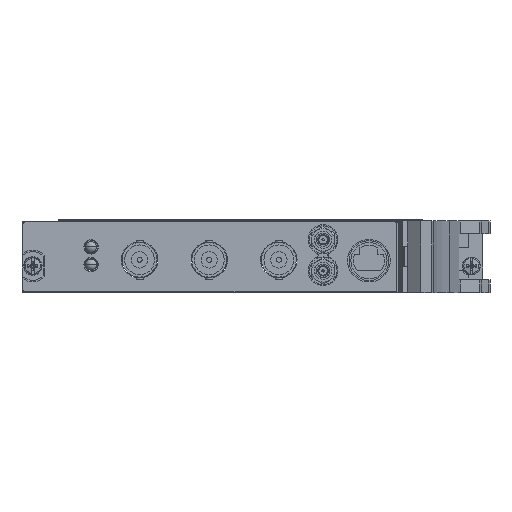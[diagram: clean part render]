
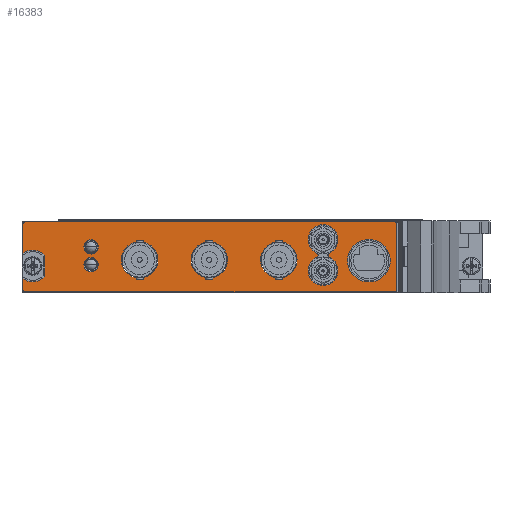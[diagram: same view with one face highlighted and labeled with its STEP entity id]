
A CAD part, top view. The second image highlights one B-rep face of the part: STEP entity #16383.
In plain terms, the highlighted planar face has unit normal (0, 0, 1).
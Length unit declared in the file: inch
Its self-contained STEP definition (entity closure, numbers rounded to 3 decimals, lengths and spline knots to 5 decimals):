
#3451=CARTESIAN_POINT('',(-2.4945,0.15,3.09));
#3452=DIRECTION('',(0.,0.,1.));
#3453=DIRECTION('',(0.,1.,0.));
#3454=AXIS2_PLACEMENT_3D('',#3451,#3452,#3453);
#3456=DIRECTION('',(-1.,0.,0.));
#3457=VECTOR('',#3456,4.07);
#3458=CARTESIAN_POINT('',(1.5755,0.17,3.09));
#3459=LINE('',#3458,#3457);
#3460=CARTESIAN_POINT('',(1.5755,0.15,3.09));
#3461=DIRECTION('',(0.,0.,1.));
#3462=DIRECTION('',(1.,0.,0.));
#3463=AXIS2_PLACEMENT_3D('',#3460,#3461,#3462);
#3465=DIRECTION('',(0.,1.,0.));
#3466=VECTOR('',#3465,0.728);
#3467=CARTESIAN_POINT('',(1.5955,-0.578,3.09));
#3468=LINE('',#3467,#3466);
#3469=CARTESIAN_POINT('',(1.5755,-0.578,3.09));
#3470=DIRECTION('',(0.,0.,1.));
#3471=DIRECTION('',(0.,-1.,0.));
#3472=AXIS2_PLACEMENT_3D('',#3469,#3470,#3471);
#3474=DIRECTION('',(1.,0.,0.));
#3475=VECTOR('',#3474,4.07);
#3476=CARTESIAN_POINT('',(-2.4945,-0.598,3.09));
#3477=LINE('',#3476,#3475);
#3478=CARTESIAN_POINT('',(-2.4945,-0.578,3.09));
#3479=DIRECTION('',(0.,0.,1.));
#3480=DIRECTION('',(-1.,0.,0.));
#3481=AXIS2_PLACEMENT_3D('',#3478,#3479,#3480);
#3483=DIRECTION('',(0.,-1.,0.));
#3484=VECTOR('',#3483,0.1263);
#3485=CARTESIAN_POINT('',(-2.5145,-0.4517,3.09));
#3486=LINE('',#3485,#3484);
#3487=CARTESIAN_POINT('',(-2.4065,-0.314,3.09));
#3488=DIRECTION('',(0.,0.,-1.));
#3489=DIRECTION('',(0.76,-0.65,0.));
#3490=AXIS2_PLACEMENT_3D('',#3487,#3488,#3489);
#3492=DIRECTION('',(0.,-1.,0.));
#3493=VECTOR('',#3492,0.22747);
#3494=CARTESIAN_POINT('',(-2.2735,-0.20026,3.09));
#3495=LINE('',#3494,#3493);
#3496=CARTESIAN_POINT('',(-2.4065,-0.314,3.09));
#3497=DIRECTION('',(0.,0.,-1.));
#3498=DIRECTION('',(-0.617,0.787,0.));
#3499=AXIS2_PLACEMENT_3D('',#3496,#3497,#3498);
#3501=DIRECTION('',(0.,-1.,0.));
#3502=VECTOR('',#3501,0.3263);
#3503=CARTESIAN_POINT('',(-2.5145,0.15,3.09));
#3504=LINE('',#3503,#3502);
#3505=CARTESIAN_POINT('',(-1.7655,-0.105,3.09));
#3506=DIRECTION('',(0.,0.,1.));
#3507=DIRECTION('',(0.,1.,0.));
#3508=AXIS2_PLACEMENT_3D('',#3505,#3506,#3507);
#3510=CARTESIAN_POINT('',(-1.7655,-0.105,3.09));
#3511=DIRECTION('',(0.,0.,1.));
#3512=DIRECTION('',(0.,-1.,0.));
#3513=AXIS2_PLACEMENT_3D('',#3510,#3511,#3512);
#3515=CARTESIAN_POINT('',(1.2875,-0.256,3.09));
#3516=DIRECTION('',(0.,0.,-1.));
#3517=DIRECTION('',(0.,-1.,0.));
#3518=AXIS2_PLACEMENT_3D('',#3515,#3516,#3517);
#3520=CARTESIAN_POINT('',(1.2875,-0.256,3.09));
#3521=DIRECTION('',(0.,0.,-1.));
#3522=DIRECTION('',(0.,1.,0.));
#3523=AXIS2_PLACEMENT_3D('',#3520,#3521,#3522);
#3525=CARTESIAN_POINT('',(0.7835,-0.024,3.09));
#3526=DIRECTION('',(0.,0.,1.));
#3527=DIRECTION('',(0.416,-0.91,0.));
#3528=AXIS2_PLACEMENT_3D('',#3525,#3526,#3527);
#3530=CARTESIAN_POINT('',(0.70538,-0.195,3.09));
#3531=DIRECTION('',(0.,0.,1.));
#3532=DIRECTION('',(0.416,-0.91,0.));
#3533=AXIS2_PLACEMENT_3D('',#3530,#3531,#3532);
#3535=CARTESIAN_POINT('',(0.7835,-0.366,3.09));
#3536=DIRECTION('',(0.,0.,1.));
#3537=DIRECTION('',(-0.416,0.91,0.));
#3538=AXIS2_PLACEMENT_3D('',#3535,#3536,#3537);
#3540=CARTESIAN_POINT('',(0.86162,-0.195,3.09));
#3541=DIRECTION('',(0.,0.,1.));
#3542=DIRECTION('',(-0.416,0.91,0.));
#3543=AXIS2_PLACEMENT_3D('',#3540,#3541,#3542);
#3545=CARTESIAN_POINT('',(-1.7655,-0.3,3.09));
#3546=DIRECTION('',(0.,0.,1.));
#3547=DIRECTION('',(0.,1.,0.));
#3548=AXIS2_PLACEMENT_3D('',#3545,#3546,#3547);
#3550=CARTESIAN_POINT('',(-1.7655,-0.3,3.09));
#3551=DIRECTION('',(0.,0.,1.));
#3552=DIRECTION('',(0.,-1.,0.));
#3553=AXIS2_PLACEMENT_3D('',#3550,#3551,#3552);
#3555=CARTESIAN_POINT('',(-1.2325,-0.247,3.09));
#3556=DIRECTION('',(0.,0.,1.));
#3557=DIRECTION('',(0.,1.,0.));
#3558=AXIS2_PLACEMENT_3D('',#3555,#3556,#3557);
#3560=CARTESIAN_POINT('',(-1.2325,-0.247,3.09));
#3561=DIRECTION('',(0.,0.,1.));
#3562=DIRECTION('',(0.,-1.,0.));
#3563=AXIS2_PLACEMENT_3D('',#3560,#3561,#3562);
#3565=CARTESIAN_POINT('',(-0.4675,-0.247,3.09));
#3566=DIRECTION('',(0.,0.,1.));
#3567=DIRECTION('',(0.,1.,0.));
#3568=AXIS2_PLACEMENT_3D('',#3565,#3566,#3567);
#3570=CARTESIAN_POINT('',(-0.4675,-0.247,3.09));
#3571=DIRECTION('',(0.,0.,1.));
#3572=DIRECTION('',(0.,-1.,0.));
#3573=AXIS2_PLACEMENT_3D('',#3570,#3571,#3572);
#3575=CARTESIAN_POINT('',(0.2975,-0.247,3.09));
#3576=DIRECTION('',(0.,0.,1.));
#3577=DIRECTION('',(0.,1.,0.));
#3578=AXIS2_PLACEMENT_3D('',#3575,#3576,#3577);
#3580=CARTESIAN_POINT('',(0.2975,-0.247,3.09));
#3581=DIRECTION('',(0.,0.,1.));
#3582=DIRECTION('',(0.,-1.,0.));
#3583=AXIS2_PLACEMENT_3D('',#3580,#3581,#3582);
#10554=CARTESIAN_POINT('',(-2.4945,0.17,3.09));
#10555=CARTESIAN_POINT('',(-2.5145,0.15,3.09));
#10556=VERTEX_POINT('',#10554);
#10557=VERTEX_POINT('',#10555);
#10558=CARTESIAN_POINT('',(-2.5145,-0.1763,3.09));
#10559=VERTEX_POINT('',#10558);
#10560=CARTESIAN_POINT('',(-2.2735,-0.20026,3.09));
#10561=VERTEX_POINT('',#10560);
#10562=CARTESIAN_POINT('',(-2.2735,-0.42774,3.09));
#10563=VERTEX_POINT('',#10562);
#10564=CARTESIAN_POINT('',(-2.5145,-0.4517,3.09));
#10565=VERTEX_POINT('',#10564);
#10566=CARTESIAN_POINT('',(-2.5145,-0.578,3.09));
#10567=VERTEX_POINT('',#10566);
#10568=CARTESIAN_POINT('',(-2.4945,-0.598,3.09));
#10569=VERTEX_POINT('',#10568);
#10570=CARTESIAN_POINT('',(1.5755,-0.598,3.09));
#10571=VERTEX_POINT('',#10570);
#10572=CARTESIAN_POINT('',(1.5955,-0.578,3.09));
#10573=VERTEX_POINT('',#10572);
#10574=CARTESIAN_POINT('',(1.5955,0.15,3.09));
#10575=VERTEX_POINT('',#10574);
#10576=CARTESIAN_POINT('',(1.5755,0.17,3.09));
#10577=VERTEX_POINT('',#10576);
#10578=CARTESIAN_POINT('',(-1.7655,-0.0265,3.09));
#10579=CARTESIAN_POINT('',(-1.7655,-0.1835,3.09));
#10580=VERTEX_POINT('',#10578);
#10581=VERTEX_POINT('',#10579);
#10582=CARTESIAN_POINT('',(1.2875,-0.49,3.09));
#10583=CARTESIAN_POINT('',(1.2875,-0.022,3.09));
#10584=VERTEX_POINT('',#10582);
#10585=VERTEX_POINT('',#10583);
#10586=CARTESIAN_POINT('',(0.85123,-0.17226,3.09));
#10587=CARTESIAN_POINT('',(0.71577,-0.17226,3.09));
#10588=VERTEX_POINT('',#10586);
#10589=VERTEX_POINT('',#10587);
#10590=CARTESIAN_POINT('',(0.71577,-0.21774,3.09));
#10591=VERTEX_POINT('',#10590);
#10592=CARTESIAN_POINT('',(0.85123,-0.21774,3.09));
#10593=VERTEX_POINT('',#10592);
#10606=CARTESIAN_POINT('',(-1.7655,-0.2215,3.09));
#10607=CARTESIAN_POINT('',(-1.7655,-0.3785,3.09));
#10608=VERTEX_POINT('',#10606);
#10609=VERTEX_POINT('',#10607);
#10610=CARTESIAN_POINT('',(-1.2325,-0.047,3.09));
#10611=CARTESIAN_POINT('',(-1.2325,-0.447,3.09));
#10612=VERTEX_POINT('',#10610);
#10613=VERTEX_POINT('',#10611);
#10614=CARTESIAN_POINT('',(-0.4675,-0.047,3.09));
#10615=CARTESIAN_POINT('',(-0.4675,-0.447,3.09));
#10616=VERTEX_POINT('',#10614);
#10617=VERTEX_POINT('',#10615);
#10618=CARTESIAN_POINT('',(0.2975,-0.047,3.09));
#10619=CARTESIAN_POINT('',(0.2975,-0.447,3.09));
#10620=VERTEX_POINT('',#10618);
#10621=VERTEX_POINT('',#10619);
#16317=CARTESIAN_POINT('',(-2.4065,-0.314,3.09));
#16318=DIRECTION('',(0.,0.,1.));
#16319=DIRECTION('',(0.,1.,0.));
#16320=AXIS2_PLACEMENT_3D('',#16317,#16318,#16319);
#16321=PLANE('',#16320);
#16322=ORIENTED_EDGE('',*,*,#14921,.F.);
#16324=ORIENTED_EDGE('',*,*,#16323,.F.);
#16325=ORIENTED_EDGE('',*,*,#16184,.F.);
#16326=ORIENTED_EDGE('',*,*,#16200,.F.);
#16327=ORIENTED_EDGE('',*,*,#16214,.F.);
#16328=ORIENTED_EDGE('',*,*,#16228,.F.);
#16329=ORIENTED_EDGE('',*,*,#16242,.F.);
#16330=ORIENTED_EDGE('',*,*,#16256,.F.);
#16331=ORIENTED_EDGE('',*,*,#16270,.F.);
#16332=ORIENTED_EDGE('',*,*,#16284,.F.);
#16333=ORIENTED_EDGE('',*,*,#16298,.F.);
#16334=ORIENTED_EDGE('',*,*,#16311,.F.);
#16335=EDGE_LOOP('',(#16322,#16324,#16325,#16326,#16327,#16328,#16329,#16330,
#16331,#16332,#16333,#16334));
#16336=FACE_OUTER_BOUND('',#16335,.F.);
#16338=ORIENTED_EDGE('',*,*,#16337,.T.);
#16340=ORIENTED_EDGE('',*,*,#16339,.T.);
#16341=EDGE_LOOP('',(#16338,#16340));
#16342=FACE_BOUND('',#16341,.F.);
#16344=ORIENTED_EDGE('',*,*,#16343,.F.);
#16346=ORIENTED_EDGE('',*,*,#16345,.F.);
#16347=EDGE_LOOP('',(#16344,#16346));
#16348=FACE_BOUND('',#16347,.F.);
#16350=ORIENTED_EDGE('',*,*,#16349,.T.);
#16352=ORIENTED_EDGE('',*,*,#16351,.F.);
#16354=ORIENTED_EDGE('',*,*,#16353,.T.);
#16356=ORIENTED_EDGE('',*,*,#16355,.F.);
#16357=EDGE_LOOP('',(#16350,#16352,#16354,#16356));
#16358=FACE_BOUND('',#16357,.F.);
#16360=ORIENTED_EDGE('',*,*,#16359,.T.);
#16362=ORIENTED_EDGE('',*,*,#16361,.T.);
#16363=EDGE_LOOP('',(#16360,#16362));
#16364=FACE_BOUND('',#16363,.F.);
#16366=ORIENTED_EDGE('',*,*,#16365,.T.);
#16368=ORIENTED_EDGE('',*,*,#16367,.T.);
#16369=EDGE_LOOP('',(#16366,#16368));
#16370=FACE_BOUND('',#16369,.F.);
#16372=ORIENTED_EDGE('',*,*,#16371,.T.);
#16374=ORIENTED_EDGE('',*,*,#16373,.T.);
#16375=EDGE_LOOP('',(#16372,#16374));
#16376=FACE_BOUND('',#16375,.F.);
#16378=ORIENTED_EDGE('',*,*,#16377,.T.);
#16380=ORIENTED_EDGE('',*,*,#16379,.T.);
#16381=EDGE_LOOP('',(#16378,#16380));
#16382=FACE_BOUND('',#16381,.F.);
#16383=ADVANCED_FACE('',(#16336,#16342,#16348,#16358,#16364,#16370,#16376,
#16382),#16321,.T.);
#3455=CIRCLE('',#3454,0.02);
#3464=CIRCLE('',#3463,0.02);
#3473=CIRCLE('',#3472,0.02);
#3482=CIRCLE('',#3481,0.02);
#3491=CIRCLE('',#3490,0.175);
#3500=CIRCLE('',#3499,0.175);
#3509=CIRCLE('',#3508,0.0785);
#3514=CIRCLE('',#3513,0.0785);
#3519=CIRCLE('',#3518,0.234);
#3524=CIRCLE('',#3523,0.234);
#3529=CIRCLE('',#3528,0.163);
#3534=CIRCLE('',#3533,0.025);
#3539=CIRCLE('',#3538,0.163);
#3544=CIRCLE('',#3543,0.025);
#3549=CIRCLE('',#3548,0.0785);
#3554=CIRCLE('',#3553,0.0785);
#3559=CIRCLE('',#3558,0.2);
#3564=CIRCLE('',#3563,0.2);
#3569=CIRCLE('',#3568,0.2);
#3574=CIRCLE('',#3573,0.2);
#3579=CIRCLE('',#3578,0.2);
#3584=CIRCLE('',#3583,0.2);
#14921=EDGE_CURVE('',#10556,#10557,#3455,.T.);
#16184=EDGE_CURVE('',#10575,#10577,#3464,.T.);
#16200=EDGE_CURVE('',#10573,#10575,#3468,.T.);
#16214=EDGE_CURVE('',#10571,#10573,#3473,.T.);
#16228=EDGE_CURVE('',#10569,#10571,#3477,.T.);
#16242=EDGE_CURVE('',#10567,#10569,#3482,.T.);
#16256=EDGE_CURVE('',#10565,#10567,#3486,.T.);
#16270=EDGE_CURVE('',#10563,#10565,#3491,.T.);
#16284=EDGE_CURVE('',#10561,#10563,#3495,.T.);
#16298=EDGE_CURVE('',#10559,#10561,#3500,.T.);
#16311=EDGE_CURVE('',#10557,#10559,#3504,.T.);
#16323=EDGE_CURVE('',#10577,#10556,#3459,.T.);
#16337=EDGE_CURVE('',#10580,#10581,#3509,.T.);
#16339=EDGE_CURVE('',#10581,#10580,#3514,.T.);
#16343=EDGE_CURVE('',#10584,#10585,#3519,.T.);
#16345=EDGE_CURVE('',#10585,#10584,#3524,.T.);
#16349=EDGE_CURVE('',#10588,#10589,#3529,.T.);
#16351=EDGE_CURVE('',#10591,#10589,#3534,.T.);
#16353=EDGE_CURVE('',#10591,#10593,#3539,.T.);
#16355=EDGE_CURVE('',#10588,#10593,#3544,.T.);
#16359=EDGE_CURVE('',#10608,#10609,#3549,.T.);
#16361=EDGE_CURVE('',#10609,#10608,#3554,.T.);
#16365=EDGE_CURVE('',#10612,#10613,#3559,.T.);
#16367=EDGE_CURVE('',#10613,#10612,#3564,.T.);
#16371=EDGE_CURVE('',#10616,#10617,#3569,.T.);
#16373=EDGE_CURVE('',#10617,#10616,#3574,.T.);
#16377=EDGE_CURVE('',#10620,#10621,#3579,.T.);
#16379=EDGE_CURVE('',#10621,#10620,#3584,.T.);
